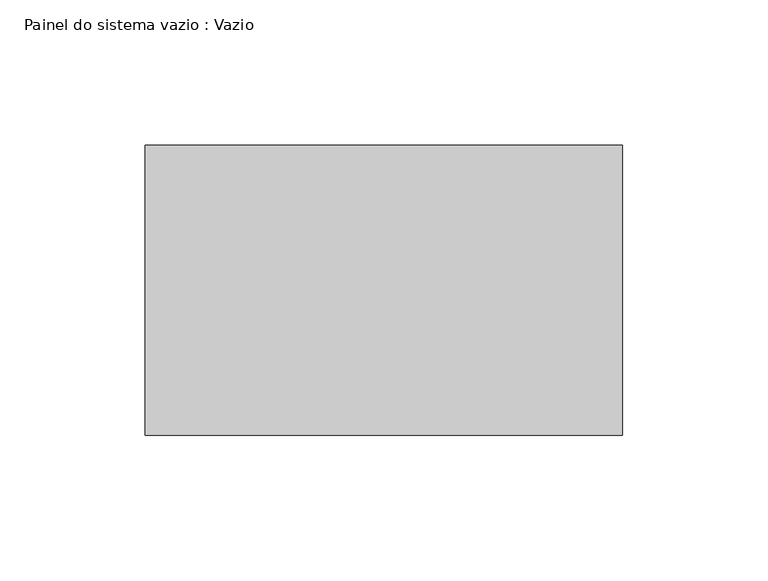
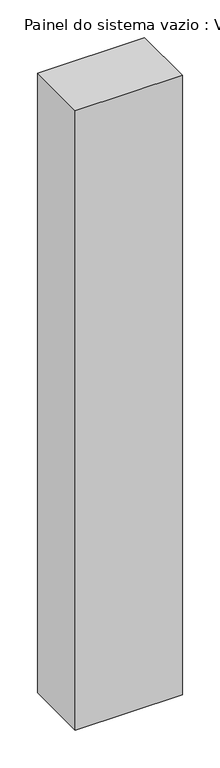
"""IFC4 building model written with IfcOpenShell, lengths in millimetres: plate geometry, Painel do sistema vazio : Vazio."""

from ifc_helpers import new_model, si_unit, origin, origin_with_axes, place, context, project, spatial, polyline, outline, extrude, source, transform, mapped, element, save


def painel_do_sistema_vazio_vazio_98beb3ec(model_context):
    return source(origin(), model_context, "Body", "SweptSolid", [
        extrude(outline(polyline([(82.3149737, -50.0), (-82.3149737, -50.0), (-82.3149737, 50.0), (82.3149737, 50.0), (82.3149737, -50.0)])), origin_with_axes(), (0.0, 0.0, 1.0), 1005.0),
    ])


if __name__ == "__main__":
    model = new_model("IFC4")
    model_context = context("Model", 3, world=origin())
    ifc_project = project(units=[si_unit("LENGTHUNIT", "METRE", prefix="MILLI")], contexts=[model_context])
    site = spatial("IfcSite", under=ifc_project)
    building = spatial("IfcBuilding", under=site)
    placement = place(None, origin())
    painel_do_sistema_vazio_vazio_shape = painel_do_sistema_vazio_vazio_98beb3ec(model_context)
    element("IfcPlate", 1, ObjectType="Painel do sistema vazio : Vazio", at=placement, inside=building, context=model_context, shape_type="MappedRepresentation", body=[
        mapped(painel_do_sistema_vazio_vazio_shape, transform((0.0, 0.0, 0.0), x_axis=(1.0, 0.0, 0.0), y_axis=(0.0, 1.0, 0.0), z_axis=(0.0, 0.0, 1.0))),
    ])
    save(model, "model.ifc")
